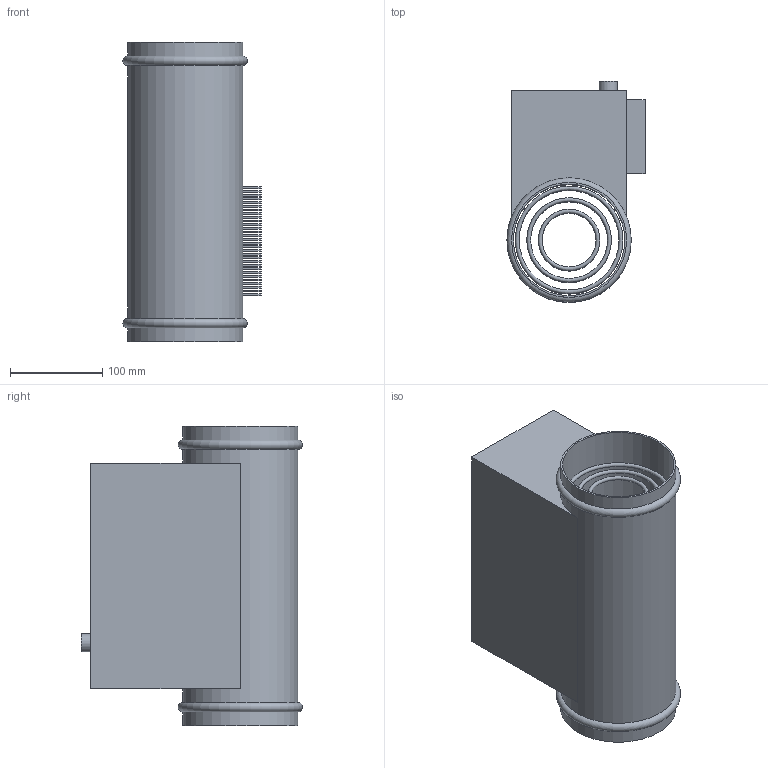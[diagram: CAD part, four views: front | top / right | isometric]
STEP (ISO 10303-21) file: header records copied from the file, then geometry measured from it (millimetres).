
FILE_DESCRIPTION(/* description */ (''),/* implementation_level */ '2;1');
FILE_NAME(/* name */ 'Z:\Output\EHR-R_0.8-125_TR-05293-001.stp',/* time_stamp */ '2017-07-11T10:56:53+02:00',/* author */ ('engineering1'),/* organization */ (''),/* preprocessor_version */ 'ST-DEVELOPER v16.5',/* originating_system */ 'Autodesk Inventor 2017',/* authorisation */ '');
FILE_SCHEMA (('AUTOMOTIVE_DESIGN { 1 0 10303 214 3 1 1 }'));
Length unit declared in the file: millimetre
Products named in the file (1): EHR-R
Bounding box: 150 x 240 x 325 mm (x, y, z)
Volume: 3911793.4 mm3; surface area: 501430.4 mm2
Topology: 16 solids, 16 shells, 180 faces, 420 edges, 273 vertices
Faces by surface type: plane 158, torus 17, cylinder 5
Full cylindrical faces by diameter (mm): 20 x1, 121 x1, 125 x3
Entity records: 5086 total; most frequent: CARTESIAN_POINT 866, ORIENTED_EDGE 824, DIRECTION 816, EDGE_CURVE 412, LINE 370, VECTOR 370, VERTEX_POINT 273, AXIS2_PLACEMENT_3D 223
